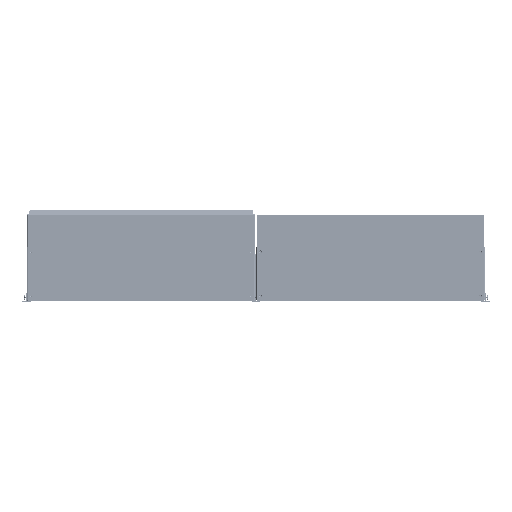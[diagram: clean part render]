
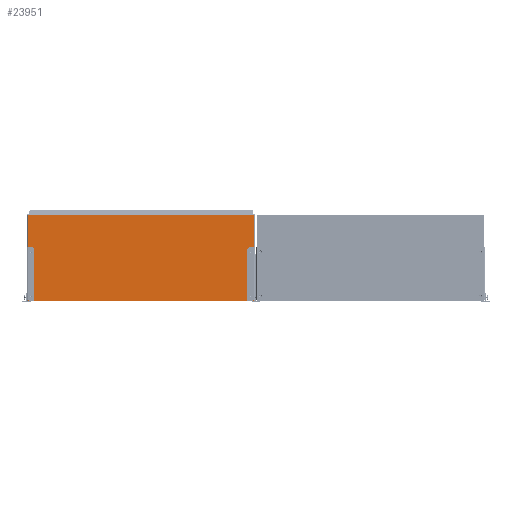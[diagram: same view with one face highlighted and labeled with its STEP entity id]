
A CAD part, front view. The second image highlights one B-rep face of the part: STEP entity #23951.
In plain terms, the highlighted planar face has unit normal (0, -1, 0).
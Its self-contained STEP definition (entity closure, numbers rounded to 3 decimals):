
#279 = FACE_BOUND ( 'NONE', #5656, .T. ) ;
#471 = PLANE ( 'NONE',  #36785 ) ;
#862 = AXIS2_PLACEMENT_3D ( 'NONE', #25695, #20634, #14284 ) ;
#1748 = CARTESIAN_POINT ( 'NONE',  ( 382.5, 0., 21.2 ) ) ;
#1925 = DIRECTION ( 'NONE',  ( 0., -1., 0. ) ) ;
#1967 = VERTEX_POINT ( 'NONE', #6107 ) ;
#2561 = VERTEX_POINT ( 'NONE', #32839 ) ;
#2694 = DIRECTION ( 'NONE',  ( 0., 0., 1. ) ) ;
#3251 = LINE ( 'NONE', #11320, #8538 ) ;
#4407 = EDGE_CURVE ( 'NONE', #34571, #17040, #27971, .T. ) ;
#5490 = CARTESIAN_POINT ( 'NONE',  ( -382.5, 0., -129.3 ) ) ;
#5656 = EDGE_LOOP ( 'NONE', ( #13667, #6040 ) ) ;
#5723 = ORIENTED_EDGE ( 'NONE', *, *, #18852, .F. ) ;
#5832 = LINE ( 'NONE', #8469, #29673 ) ;
#5918 = FACE_BOUND ( 'NONE', #20780, .T. ) ;
#6040 = ORIENTED_EDGE ( 'NONE', *, *, #4407, .T. ) ;
#6107 = CARTESIAN_POINT ( 'NONE',  ( 382.5, 0., -134.3 ) ) ;
#6696 = CARTESIAN_POINT ( 'NONE',  ( 382.5, 0., -131.8 ) ) ;
#7213 = DIRECTION ( 'NONE',  ( 0., -1., 0. ) ) ;
#7556 = DIRECTION ( 'NONE',  ( 0., 1., 0. ) ) ;
#8113 = CARTESIAN_POINT ( 'NONE',  ( -393.5, 0., -148.5 ) ) ;
#8469 = CARTESIAN_POINT ( 'NONE',  ( -393.5, 0., -149. ) ) ;
#8538 = VECTOR ( 'NONE', #2694, 1000. ) ;
#10173 = EDGE_CURVE ( 'NONE', #23026, #32297, #18235, .T. ) ;
#10261 = EDGE_CURVE ( 'NONE', #20507, #13950, #18789, .T. ) ;
#10376 = EDGE_CURVE ( 'NONE', #15742, #20507, #3251, .T. ) ;
#10753 = DIRECTION ( 'NONE',  ( -1., 0., 0. ) ) ;
#11320 = CARTESIAN_POINT ( 'NONE',  ( 393.5, 0., 150. ) ) ;
#11531 = FACE_OUTER_BOUND ( 'NONE', #32780, .T. ) ;
#11541 = CARTESIAN_POINT ( 'NONE',  ( -382.5, 0., -131.8 ) ) ;
#12451 = CIRCLE ( 'NONE', #28580, 2.5 ) ;
#12789 = CARTESIAN_POINT ( 'NONE',  ( -382.5, 0., 21.2 ) ) ;
#12987 = CARTESIAN_POINT ( 'NONE',  ( -382.5, 0., 23.7 ) ) ;
#13667 = ORIENTED_EDGE ( 'NONE', *, *, #26875, .T. ) ;
#13802 = DIRECTION ( 'NONE',  ( 0., 1., 0. ) ) ;
#13950 = VERTEX_POINT ( 'NONE', #14003 ) ;
#14003 = CARTESIAN_POINT ( 'NONE',  ( -393.5, 0., 148.5 ) ) ;
#14284 = DIRECTION ( 'NONE',  ( 0., 0., -1. ) ) ;
#14482 = CIRCLE ( 'NONE', #26432, 2.5 ) ;
#14528 = DIRECTION ( 'NONE',  ( 0., -1., 0. ) ) ;
#15127 = DIRECTION ( 'NONE',  ( 0., -1., 0. ) ) ;
#15517 = ORIENTED_EDGE ( 'NONE', *, *, #18410, .F. ) ;
#15742 = VERTEX_POINT ( 'NONE', #16310 ) ;
#15749 = CIRCLE ( 'NONE', #25304, 2.5 ) ;
#16310 = CARTESIAN_POINT ( 'NONE',  ( 393.5, 0., -148.5 ) ) ;
#17040 = VERTEX_POINT ( 'NONE', #34633 ) ;
#17333 = CARTESIAN_POINT ( 'NONE',  ( 0., 0., 0. ) ) ;
#17845 = AXIS2_PLACEMENT_3D ( 'NONE', #27417, #7213, #19178 ) ;
#18061 = FACE_BOUND ( 'NONE', #18786, .T. ) ;
#18235 = CIRCLE ( 'NONE', #22862, 2.5 ) ;
#18410 = EDGE_CURVE ( 'NONE', #2561, #1967, #34009, .T. ) ;
#18786 = EDGE_LOOP ( 'NONE', ( #36910, #15517 ) ) ;
#18789 = LINE ( 'NONE', #30552, #21661 ) ;
#18852 = EDGE_CURVE ( 'NONE', #26468, #30361, #35253, .T. ) ;
#19033 = CARTESIAN_POINT ( 'NONE',  ( 382.5, 0., -131.8 ) ) ;
#19178 = DIRECTION ( 'NONE',  ( 0., 0., -1. ) ) ;
#19220 = DIRECTION ( 'NONE',  ( 0., -1., 0. ) ) ;
#20507 = VERTEX_POINT ( 'NONE', #21209 ) ;
#20634 = DIRECTION ( 'NONE',  ( 0., 1., 0. ) ) ;
#20780 = EDGE_LOOP ( 'NONE', ( #35440, #25630 ) ) ;
#21191 = CIRCLE ( 'NONE', #862, 2.5 ) ;
#21209 = CARTESIAN_POINT ( 'NONE',  ( 393.5, 0., 148.5 ) ) ;
#21581 = DIRECTION ( 'NONE',  ( 0., 0., -1. ) ) ;
#21661 = VECTOR ( 'NONE', #10753, 1000. ) ;
#21833 = EDGE_CURVE ( 'NONE', #30361, #26468, #14482, .T. ) ;
#22092 = ORIENTED_EDGE ( 'NONE', *, *, #10376, .T. ) ;
#22155 = DIRECTION ( 'NONE',  ( 0., 0., -1. ) ) ;
#22405 = DIRECTION ( 'NONE',  ( 0., 0., -1. ) ) ;
#22862 = AXIS2_PLACEMENT_3D ( 'NONE', #11541, #13802, #22405 ) ;
#22944 = FACE_BOUND ( 'NONE', #24110, .T. ) ;
#23026 = VERTEX_POINT ( 'NONE', #5490 ) ;
#23482 = ORIENTED_EDGE ( 'NONE', *, *, #10261, .T. ) ;
#23951 = ADVANCED_FACE ( 'NONE', ( #11531, #279, #5918, #22944, #18061 ), #471, .T. ) ;
#24110 = EDGE_LOOP ( 'NONE', ( #5723, #27258 ) ) ;
#24338 = CARTESIAN_POINT ( 'NONE',  ( 382.5, 0., 23.7 ) ) ;
#24497 = AXIS2_PLACEMENT_3D ( 'NONE', #19033, #19220, #30244 ) ;
#24820 = EDGE_CURVE ( 'NONE', #13950, #28213, #5832, .T. ) ;
#25304 = AXIS2_PLACEMENT_3D ( 'NONE', #6696, #15127, #35494 ) ;
#25630 = ORIENTED_EDGE ( 'NONE', *, *, #10173, .T. ) ;
#25695 = CARTESIAN_POINT ( 'NONE',  ( -382.5, 0., -131.8 ) ) ;
#25908 = EDGE_CURVE ( 'NONE', #28213, #15742, #27886, .T. ) ;
#25939 = DIRECTION ( 'NONE',  ( 0., 0., -1. ) ) ;
#26432 = AXIS2_PLACEMENT_3D ( 'NONE', #1748, #1925, #36355 ) ;
#26468 = VERTEX_POINT ( 'NONE', #27430 ) ;
#26875 = EDGE_CURVE ( 'NONE', #17040, #34571, #12451, .T. ) ;
#27010 = DIRECTION ( 'NONE',  ( 0., 1., 0. ) ) ;
#27258 = ORIENTED_EDGE ( 'NONE', *, *, #21833, .F. ) ;
#27417 = CARTESIAN_POINT ( 'NONE',  ( 382.5, 0., 21.2 ) ) ;
#27430 = CARTESIAN_POINT ( 'NONE',  ( 382.5, 0., 18.7 ) ) ;
#27886 = LINE ( 'NONE', #36648, #35663 ) ;
#27971 = CIRCLE ( 'NONE', #29171, 2.5 ) ;
#28213 = VERTEX_POINT ( 'NONE', #8113 ) ;
#28580 = AXIS2_PLACEMENT_3D ( 'NONE', #12789, #27010, #21581 ) ;
#29171 = AXIS2_PLACEMENT_3D ( 'NONE', #31105, #7556, #22155 ) ;
#29502 = EDGE_CURVE ( 'NONE', #1967, #2561, #15749, .T. ) ;
#29673 = VECTOR ( 'NONE', #34430, 1000. ) ;
#30244 = DIRECTION ( 'NONE',  ( 0., 0., -1. ) ) ;
#30361 = VERTEX_POINT ( 'NONE', #24338 ) ;
#30552 = CARTESIAN_POINT ( 'NONE',  ( -395., 0., 148.5 ) ) ;
#31105 = CARTESIAN_POINT ( 'NONE',  ( -382.5, 0., 21.2 ) ) ;
#32297 = VERTEX_POINT ( 'NONE', #35283 ) ;
#32780 = EDGE_LOOP ( 'NONE', ( #33653, #33446, #22092, #23482 ) ) ;
#32839 = CARTESIAN_POINT ( 'NONE',  ( 382.5, 0., -129.3 ) ) ;
#33446 = ORIENTED_EDGE ( 'NONE', *, *, #25908, .T. ) ;
#33653 = ORIENTED_EDGE ( 'NONE', *, *, #24820, .T. ) ;
#34009 = CIRCLE ( 'NONE', #24497, 2.5 ) ;
#34430 = DIRECTION ( 'NONE',  ( 0., 0., -1. ) ) ;
#34571 = VERTEX_POINT ( 'NONE', #12987 ) ;
#34633 = CARTESIAN_POINT ( 'NONE',  ( -382.5, 0., 18.7 ) ) ;
#34895 = EDGE_CURVE ( 'NONE', #32297, #23026, #21191, .T. ) ;
#35253 = CIRCLE ( 'NONE', #17845, 2.5 ) ;
#35283 = CARTESIAN_POINT ( 'NONE',  ( -382.5, 0., -134.3 ) ) ;
#35440 = ORIENTED_EDGE ( 'NONE', *, *, #34895, .T. ) ;
#35494 = DIRECTION ( 'NONE',  ( 0., 0., -1. ) ) ;
#35663 = VECTOR ( 'NONE', #36833, 1000. ) ;
#36355 = DIRECTION ( 'NONE',  ( 0., 0., -1. ) ) ;
#36648 = CARTESIAN_POINT ( 'NONE',  ( 394., 0., -148.5 ) ) ;
#36785 = AXIS2_PLACEMENT_3D ( 'NONE', #17333, #14528, #25939 ) ;
#36833 = DIRECTION ( 'NONE',  ( 1., 0., 0. ) ) ;
#36910 = ORIENTED_EDGE ( 'NONE', *, *, #29502, .F. ) ;
